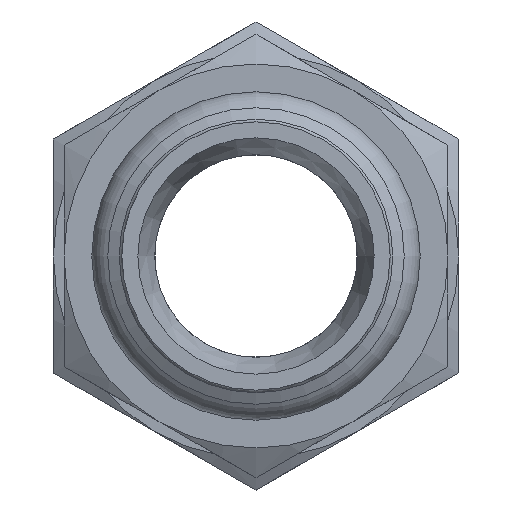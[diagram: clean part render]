
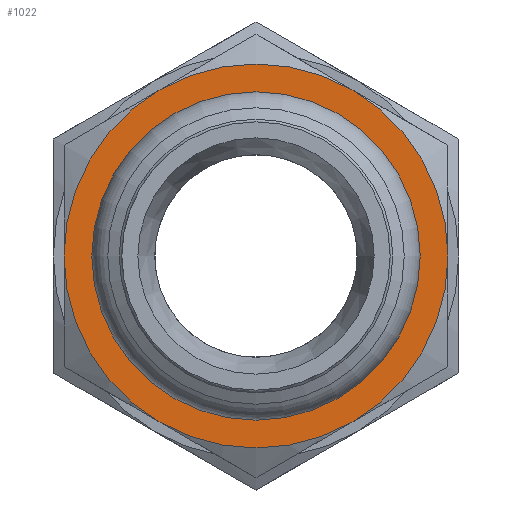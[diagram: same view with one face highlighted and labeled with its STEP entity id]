
A CAD part, left-side view. The second image highlights one B-rep face of the part: STEP entity #1022.
In plain terms, the highlighted planar face has unit normal (-1, 0, 0).
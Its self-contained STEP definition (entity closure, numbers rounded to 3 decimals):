
#946=CARTESIAN_POINT('',(-20.,13.,0.));
#947=VERTEX_POINT('',#946);
#948=CARTESIAN_POINT('',(-20.,0.,0.0));
#949=DIRECTION('',(-1.0,0.0,0.0));
#950=DIRECTION('',(0.0,-1.0,0.0));
#951=AXIS2_PLACEMENT_3D('',#948,#949,#950);
#952=CIRCLE('',#951,13.0);
#953=EDGE_CURVE('',#947,#947,#952,.T.);
#958=CARTESIAN_POINT('',(-20.,14.5,0.0));
#959=DIRECTION('',(-1.0,0.0,0.0));
#960=DIRECTION('',(0.0,0.0,1.0));
#961=AXIS2_PLACEMENT_3D('',#958,#959,#960);
#962=PLANE('',#961);
#963=CARTESIAN_POINT('',(-20.,18.0,0.0));
#964=VERTEX_POINT('',#963);
#965=CARTESIAN_POINT('',(-20.,9.,15.588));
#966=VERTEX_POINT('',#965);
#967=CARTESIAN_POINT('',(-20.,0.,0.0));
#968=DIRECTION('',(1.0,0.0,0.0));
#969=DIRECTION('',(0.0,1.0,0.0));
#970=AXIS2_PLACEMENT_3D('',#967,#968,#969);
#971=CIRCLE('',#970,18.0);
#972=EDGE_CURVE('',#964,#966,#971,.T.);
#973=ORIENTED_EDGE('',*,*,#972,.F.);
#974=CARTESIAN_POINT('',(-20.,9.,-15.588));
#975=VERTEX_POINT('',#974);
#976=CARTESIAN_POINT('',(-20.,0.,0.0));
#977=DIRECTION('',(1.0,0.0,0.0));
#978=DIRECTION('',(0.0,1.0,0.0));
#979=AXIS2_PLACEMENT_3D('',#976,#977,#978);
#980=CIRCLE('',#979,18.0);
#981=EDGE_CURVE('',#975,#964,#980,.T.);
#982=ORIENTED_EDGE('',*,*,#981,.F.);
#983=CARTESIAN_POINT('',(-20.,-9.0,-15.588));
#984=VERTEX_POINT('',#983);
#985=CARTESIAN_POINT('',(-20.,0.,0.0));
#986=DIRECTION('',(1.0,0.0,0.0));
#987=DIRECTION('',(0.0,1.0,0.0));
#988=AXIS2_PLACEMENT_3D('',#985,#986,#987);
#989=CIRCLE('',#988,18.0);
#990=EDGE_CURVE('',#984,#975,#989,.T.);
#991=ORIENTED_EDGE('',*,*,#990,.F.);
#992=CARTESIAN_POINT('',(-20.,-18.,0.));
#993=VERTEX_POINT('',#992);
#994=CARTESIAN_POINT('',(-20.,0.,0.0));
#995=DIRECTION('',(1.0,0.0,0.0));
#996=DIRECTION('',(0.0,1.0,0.0));
#997=AXIS2_PLACEMENT_3D('',#994,#995,#996);
#998=CIRCLE('',#997,18.0);
#999=EDGE_CURVE('',#993,#984,#998,.T.);
#1000=ORIENTED_EDGE('',*,*,#999,.F.);
#1001=CARTESIAN_POINT('',(-20.,-9.,15.588));
#1002=VERTEX_POINT('',#1001);
#1003=CARTESIAN_POINT('',(-20.,0.,0.0));
#1004=DIRECTION('',(1.0,0.0,0.0));
#1005=DIRECTION('',(0.0,1.0,0.0));
#1006=AXIS2_PLACEMENT_3D('',#1003,#1004,#1005);
#1007=CIRCLE('',#1006,18.0);
#1008=EDGE_CURVE('',#1002,#993,#1007,.T.);
#1009=ORIENTED_EDGE('',*,*,#1008,.F.);
#1010=CARTESIAN_POINT('',(-20.,0.,0.0));
#1011=DIRECTION('',(1.0,0.0,0.0));
#1012=DIRECTION('',(0.0,1.0,0.0));
#1013=AXIS2_PLACEMENT_3D('',#1010,#1011,#1012);
#1014=CIRCLE('',#1013,18.0);
#1015=EDGE_CURVE('',#966,#1002,#1014,.T.);
#1016=ORIENTED_EDGE('',*,*,#1015,.F.);
#1017=EDGE_LOOP('',(#973,#982,#991,#1000,#1009,#1016));
#1018=FACE_OUTER_BOUND('',#1017,.T.);
#1019=ORIENTED_EDGE('',*,*,#953,.F.);
#1020=EDGE_LOOP('',(#1019));
#1021=FACE_BOUND('',#1020,.T.);
#1022=ADVANCED_FACE('',(#1018,#1021),#962,.T.);
